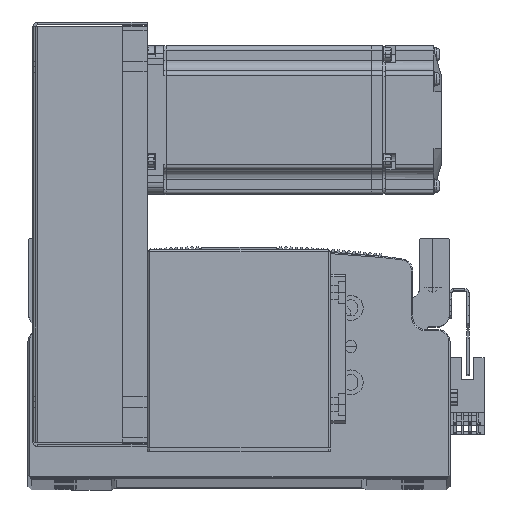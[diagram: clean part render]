
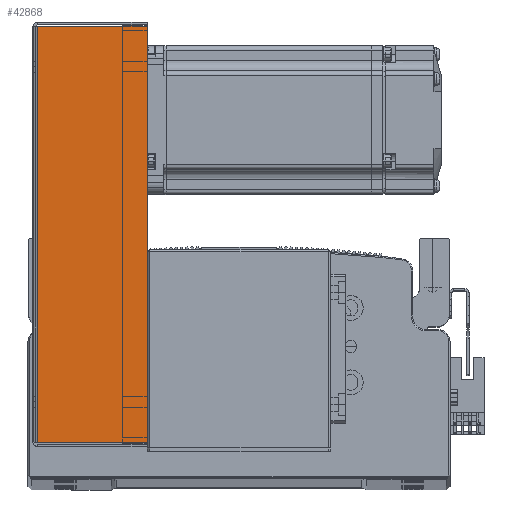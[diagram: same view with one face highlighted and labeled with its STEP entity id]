
A CAD part, top view. The second image highlights one B-rep face of the part: STEP entity #42868.
In plain terms, the highlighted planar face has unit normal (0, 0, 1) as drawn and (0, 0, -1) by its records, which use the part's own axes.
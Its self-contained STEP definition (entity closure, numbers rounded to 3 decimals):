
#4889 = EDGE_CURVE ( 'NONE', #6225, #6256, #90135, .T. ) ;
#4891 = EDGE_CURVE ( 'NONE', #6225, #6231, #90161, .T. ) ;
#4971 = EDGE_CURVE ( 'NONE', #6256, #6261, #90204, .T. ) ;
#5005 = EDGE_CURVE ( 'NONE', #6231, #6261, #90235, .T. ) ;
#6225 = VERTEX_POINT ( 'NONE', #80578 ) ;
#6231 = VERTEX_POINT ( 'NONE', #80547 ) ;
#6256 = VERTEX_POINT ( 'NONE', #80631 ) ;
#6261 = VERTEX_POINT ( 'NONE', #80736 ) ;
#8862 = EDGE_LOOP ( 'NONE', ( #54900, #54614, #54862, #54928 ) ) ;
#10759 = FACE_OUTER_BOUND ( 'NONE', #8862, .T. ) ;
#12973 = PLANE ( 'NONE',  #16791 ) ;
#12987 = DIRECTION ( 'NONE',  ( 0., 0., 1. ) ) ;
#12994 = CARTESIAN_POINT ( 'NONE',  ( 0., 0., -40.5 ) ) ;
#12996 = DIRECTION ( 'NONE',  ( 0., -1., 0. ) ) ;
#16791 = AXIS2_PLACEMENT_3D ( 'NONE', #12994, #12987, #12996 ) ;
#42868 = ADVANCED_FACE ( 'NONE', ( #10759 ), #12973, .F. ) ;
#54614 = ORIENTED_EDGE ( 'NONE', *, *, #4891, .T. ) ;
#54862 = ORIENTED_EDGE ( 'NONE', *, *, #5005, .T. ) ;
#54900 = ORIENTED_EDGE ( 'NONE', *, *, #4889, .F. ) ;
#54928 = ORIENTED_EDGE ( 'NONE', *, *, #4971, .F. ) ;
#80547 = CARTESIAN_POINT ( 'NONE',  ( -83.793, 45., -40.5 ) ) ;
#80578 = CARTESIAN_POINT ( 'NONE',  ( -83.793, 0.737, -40.5 ) ) ;
#80631 = CARTESIAN_POINT ( 'NONE',  ( 83.793, 0.737, -40.5 ) ) ;
#80736 = CARTESIAN_POINT ( 'NONE',  ( 83.793, 45., -40.5 ) ) ;
#88663 = CARTESIAN_POINT ( 'NONE',  ( -83.793, 0., -40.5 ) ) ;
#88674 = CARTESIAN_POINT ( 'NONE',  ( 0., 0.737, -40.5 ) ) ;
#88678 = DIRECTION ( 'NONE',  ( 1., 0., 0. ) ) ;
#88731 = DIRECTION ( 'NONE',  ( 0., 1., 0. ) ) ;
#88808 = CARTESIAN_POINT ( 'NONE',  ( 83.793, 0., -40.5 ) ) ;
#88811 = DIRECTION ( 'NONE',  ( 0., 1., 0. ) ) ;
#88909 = DIRECTION ( 'NONE',  ( 1., 0., 0. ) ) ;
#88929 = CARTESIAN_POINT ( 'NONE',  ( 84.5, 45., -40.5 ) ) ;
#90135 = LINE ( 'NONE', #88674, #90147 ) ;
#90147 = VECTOR ( 'NONE', #88678, 1000. ) ;
#90153 = VECTOR ( 'NONE', #88731, 1000. ) ;
#90161 = LINE ( 'NONE', #88663, #90153 ) ;
#90204 = LINE ( 'NONE', #88808, #90211 ) ;
#90211 = VECTOR ( 'NONE', #88811, 1000. ) ;
#90235 = LINE ( 'NONE', #88929, #90236 ) ;
#90236 = VECTOR ( 'NONE', #88909, 1000. ) ;
